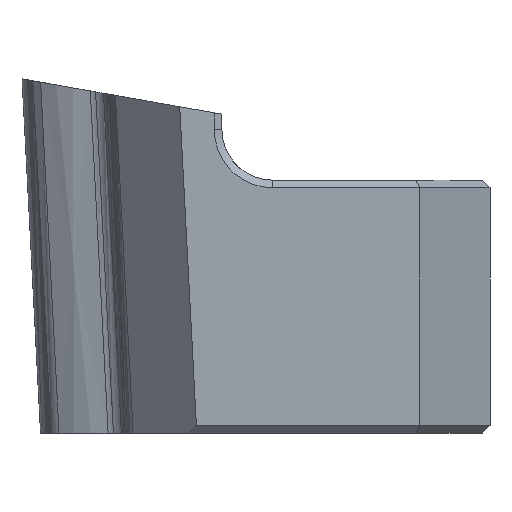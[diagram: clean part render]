
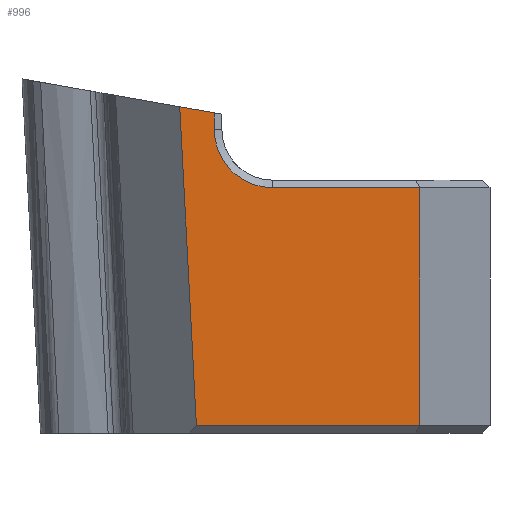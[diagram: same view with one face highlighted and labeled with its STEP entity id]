
A CAD part, left-side view. The second image highlights one B-rep face of the part: STEP entity #996.
In plain terms, the highlighted planar face has unit normal (-1, 0, 0).
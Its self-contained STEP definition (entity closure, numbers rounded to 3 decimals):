
#14 = DIRECTION ( 'NONE',  ( 1., 0., 0. ) ) ;
#78 = ORIENTED_EDGE ( 'NONE', *, *, #1489, .T. ) ;
#101 = CARTESIAN_POINT ( 'NONE',  ( -6.55, -3.415, -6.7 ) ) ;
#129 = FACE_OUTER_BOUND ( 'NONE', #355, .T. ) ;
#175 = LINE ( 'NONE', #674, #1022 ) ;
#181 = DIRECTION ( 'NONE',  ( 0., -0.052, -0.999 ) ) ;
#218 = AXIS2_PLACEMENT_3D ( 'NONE', #1359, #615, #1112 ) ;
#283 = VERTEX_POINT ( 'NONE', #1166 ) ;
#291 = ORIENTED_EDGE ( 'NONE', *, *, #1582, .T. ) ;
#295 = DIRECTION ( 'NONE',  ( 0., 0., -1. ) ) ;
#304 = LINE ( 'NONE', #808, #1600 ) ;
#329 = CARTESIAN_POINT ( 'NONE',  ( -6.55, -6.42, 2.7 ) ) ;
#355 = EDGE_LOOP ( 'NONE', ( #557, #78, #409, #1010, #1442, #1365, #291 ) ) ;
#409 = ORIENTED_EDGE ( 'NONE', *, *, #1484, .T. ) ;
#423 = LINE ( 'NONE', #925, #689 ) ;
#440 = VERTEX_POINT ( 'NONE', #1329 ) ;
#445 = VERTEX_POINT ( 'NONE', #1587 ) ;
#467 = VERTEX_POINT ( 'NONE', #101 ) ;
#505 = AXIS2_PLACEMENT_3D ( 'NONE', #1127, #14, #513 ) ;
#513 = DIRECTION ( 'NONE',  ( 0., 0., -1. ) ) ;
#548 = VERTEX_POINT ( 'NONE', #329 ) ;
#557 = ORIENTED_EDGE ( 'NONE', *, *, #929, .T. ) ;
#615 = DIRECTION ( 'NONE',  ( 1., 0., 0. ) ) ;
#630 = PLANE ( 'NONE',  #505 ) ;
#674 = CARTESIAN_POINT ( 'NONE',  ( -6.55, -2.697, 2.7 ) ) ;
#685 = CARTESIAN_POINT ( 'NONE',  ( -6.55, -12.252, 2.7 ) ) ;
#689 = VECTOR ( 'NONE', #1424, 1000. ) ;
#719 = CARTESIAN_POINT ( 'NONE',  ( -6.55, -2.697, -6.7 ) ) ;
#722 = VECTOR ( 'NONE', #181, 1000. ) ;
#731 = EDGE_CURVE ( 'NONE', #877, #467, #807, .T. ) ;
#773 = VERTEX_POINT ( 'NONE', #685 ) ;
#807 = LINE ( 'NONE', #1294, #722 ) ;
#808 = CARTESIAN_POINT ( 'NONE',  ( -6.55, -4.12, 7. ) ) ;
#847 = EDGE_CURVE ( 'NONE', #467, #445, #1458, .T. ) ;
#877 = VERTEX_POINT ( 'NONE', #1465 ) ;
#917 = LINE ( 'NONE', #1415, #971 ) ;
#925 = CARTESIAN_POINT ( 'NONE',  ( -6.55, -1.092, 6.194 ) ) ;
#929 = EDGE_CURVE ( 'NONE', #548, #440, #1129, .T. ) ;
#971 = VECTOR ( 'NONE', #295, 1000. ) ;
#996 = ADVANCED_FACE ( 'NONE', ( #129 ), #630, .F. ) ;
#1010 = ORIENTED_EDGE ( 'NONE', *, *, #731, .T. ) ;
#1022 = VECTOR ( 'NONE', #1165, 1000. ) ;
#1112 = DIRECTION ( 'NONE',  ( 0., 0., -1. ) ) ;
#1127 = CARTESIAN_POINT ( 'NONE',  ( -6.55, -2.697, 7. ) ) ;
#1129 = CIRCLE ( 'NONE', #218, 2.3 ) ;
#1165 = DIRECTION ( 'NONE',  ( 0., 1., 0. ) ) ;
#1166 = CARTESIAN_POINT ( 'NONE',  ( -6.55, -4.12, 5.66 ) ) ;
#1213 = DIRECTION ( 'NONE',  ( 0., -1., 0. ) ) ;
#1294 = CARTESIAN_POINT ( 'NONE',  ( -6.55, -2.697, 7. ) ) ;
#1295 = DIRECTION ( 'NONE',  ( 0., 0., 1. ) ) ;
#1329 = CARTESIAN_POINT ( 'NONE',  ( -6.55, -4.12, 5. ) ) ;
#1359 = CARTESIAN_POINT ( 'NONE',  ( -6.55, -6.42, 5. ) ) ;
#1365 = ORIENTED_EDGE ( 'NONE', *, *, #1468, .F. ) ;
#1415 = CARTESIAN_POINT ( 'NONE',  ( -6.55, -12.252, 7. ) ) ;
#1424 = DIRECTION ( 'NONE',  ( 0., 0.985, 0.174 ) ) ;
#1442 = ORIENTED_EDGE ( 'NONE', *, *, #847, .T. ) ;
#1458 = LINE ( 'NONE', #719, #1555 ) ;
#1465 = CARTESIAN_POINT ( 'NONE',  ( -6.55, -2.754, 5.901 ) ) ;
#1468 = EDGE_CURVE ( 'NONE', #773, #445, #917, .T. ) ;
#1484 = EDGE_CURVE ( 'NONE', #283, #877, #423, .T. ) ;
#1489 = EDGE_CURVE ( 'NONE', #440, #283, #304, .T. ) ;
#1555 = VECTOR ( 'NONE', #1213, 1000. ) ;
#1582 = EDGE_CURVE ( 'NONE', #773, #548, #175, .T. ) ;
#1587 = CARTESIAN_POINT ( 'NONE',  ( -6.55, -12.252, -6.7 ) ) ;
#1600 = VECTOR ( 'NONE', #1295, 1000. ) ;
